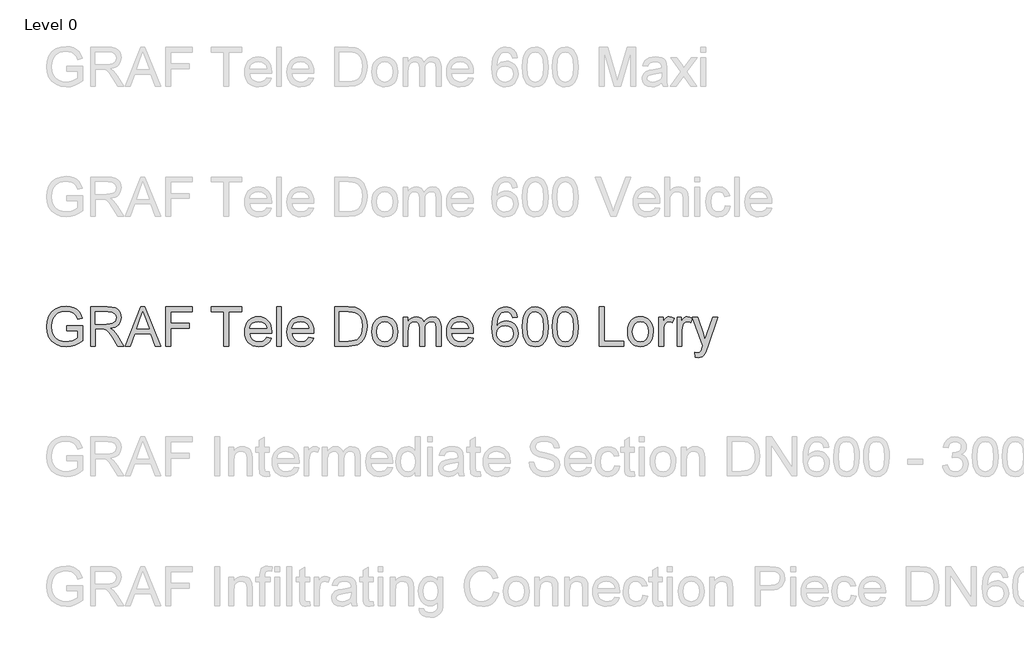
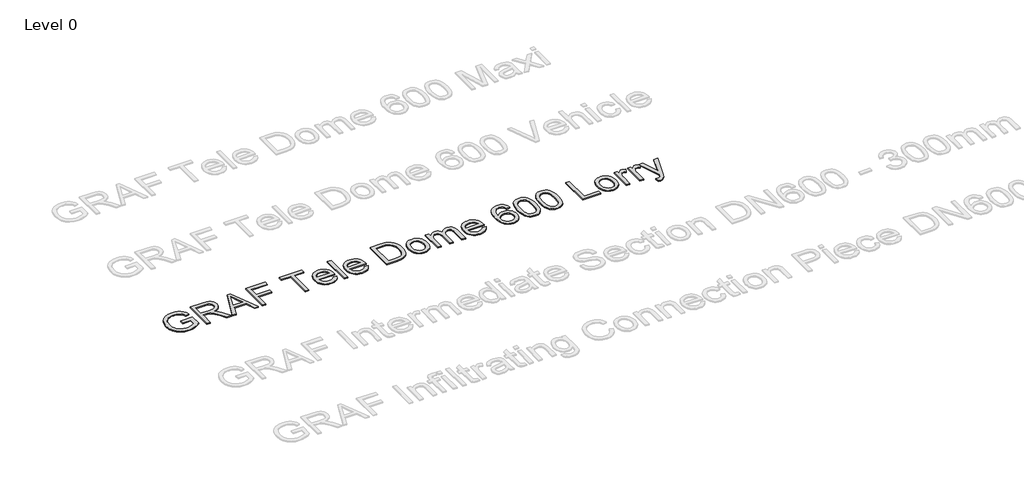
# One storey, part 18 of 25: 1 proxy.
"""IFC4 building model written with IfcOpenShell, lengths in millimetres."""

from ifc_helpers import new_model, si_unit, origin, origin_with_axes, place, context, project, spatial, polyline, outline, extrude, element, save

model = new_model("IFC4")

# Units and contexts
model_context = context("Model", 3, world=origin())
ifc_project = project(units=[si_unit("LENGTHUNIT", "METRE", prefix="MILLI")], contexts=[model_context])

# Site, building, storey
site = spatial("IfcSite", under=ifc_project)
building = spatial("IfcBuilding", under=site)
storey = spatial("IfcBuildingStorey", under=building, Name="Level 0", Elevation=0.0)

# Proxy
placement = place(None, origin())
element("IfcBuildingElementProxy", 1, Name="300mm Arial", ObjectType="300mm Arial", at=placement, inside=storey, context=model_context, shape_type="SweptSolid", body=[
    extrude(outline(polyline([(-15240.9940387, 4916.7454403), (-15240.9940387, 4954.4165566), (-15118.5629107, 4954.4165566), (-15118.5629107, 4841.7710897), (-15148.3153671, 4821.0777274), (-15179.0059225, 4806.2336889), (-15210.5610007, 4797.2941564), (-15242.9070251, 4794.3143123), (-15285.1674693, 4799.050793), (-15323.3628175, 4813.260235), (-15355.0926395, 4836.4459978), (-15377.9565055, 4868.1114405), (-15391.7796715, 4906.0952565), (-15396.3873935, 4948.2361391), (-15391.7980656, 4990.6805243), (-15378.0300819, 5030.1634594), (-15355.6536596, 5063.282036), (-15325.2390156, 5086.6333457), (-15288.1932987, 5100.4841028), (-15245.9236575, 5105.1010218), (-15214.8928112, 5102.4246803), (-15186.9889618, 5094.3956557), (-15163.4904994, 5081.5933623), (-15145.6758138, 5064.5972141), (-15132.4964413, 5042.5886738), (-15122.9039183, 5014.7492038), (-15157.6319786, 5004.9635427), (-15165.3850917, 5024.8199734), (-15174.8120678, 5039.8019677), (-15187.2832674, 5051.0959449), (-15204.169051, 5059.8883246), (-15224.3013932, 5065.5445103), (-15246.5122687, 5067.4299055), (-15272.5123287, 5065.3973575), (-15294.7415982, 5059.2997134), (-15313.1173039, 5049.9003284), (-15327.5566722, 5037.9625577), (-15346.9440533, 5008.9366683), (-15355.7732212, 4980.49939), (-15358.7162772, 4949.7812434), (-15355.175413, 4913.7563991), (-15344.5528204, 4884.1143073), (-15327.1703961, 4861.0665003), (-15303.3500369, 4844.8245102), (-15275.4737787, 4835.195199), (-15245.9236575, 4831.9854286), (-15219.831627, 4834.4042527), (-15194.3833899, 4841.6607251), (-15172.2828791, 4851.6579183), (-15156.234027, 4862.298905), (-15156.234027, 4916.7454403), (-15240.9940387, 4916.7454403)])), origin_with_axes(), (0.0, 0.0, 1.0), 10.0),
    extrude(outline(polyline([(-15057.3473467, 4799.0232018), (-15057.3473467, 5100.3921323), (-14927.4850024, 5100.3921323), (-14892.5821982, 5098.3595842), (-14867.1891434, 5092.2619402), (-14848.6294968, 5081.0047511), (-14834.2269167, 5063.4935682), (-14824.9838815, 5041.7793334), (-14821.9028698, 5017.912989), (-14827.0072325, 4988.2249119), (-14842.3203206, 4963.6136065), (-14853.9200997, 4953.5842236), (-14868.3019865, 4945.5689946), (-14905.4120827, 4935.5809984), (-14884.0013506, 4919.467767), (-14853.467145, 4880.6930048), (-14803.2144645, 4799.0232018), (-14846.9924219, 4799.0232018), (-14886.2086426, 4861.4895646), (-14914.5355562, 4902.8395009), (-14934.4379722, 4922.3740348), (-14952.3538253, 4929.5477337), (-14974.2060158, 4930.8721089), (-15019.6762304, 4930.8721089), (-15019.6762304, 4799.0232018), (-15057.3473467, 4799.0232018)]), holes=[polyline([(-15019.6762304, 4968.5432252), (-14935.3576771, 4968.5432252), (-14911.1418448, 4969.8767974), (-14892.3522719, 4973.8775141), (-14878.2072092, 4980.8120897), (-14867.9249074, 4990.9472387), (-14861.6617165, 5003.2069062), (-14859.5739861, 5016.5150374), (-14863.5563087, 5034.890743), (-14875.5032765, 5049.6979933), (-14896.058683, 5059.4652603), (-14925.8663217, 5062.721016), (-15019.6762304, 5062.721016), (-15019.6762304, 4968.5432252)])]), origin_with_axes(), (0.0, 0.0, 1.0), 10.0),
    extrude(outline(polyline([(-14791.0743586, 4799.0232018), (-14670.7769462, 5100.3921323), (-14638.6976362, 5100.3921323), (-14518.4002238, 4799.0232018), (-14558.2050557, 4799.0232018), (-14592.7123868, 4893.2009926), (-14716.835772, 4893.2009926), (-14751.2695268, 4799.0232018), (-14791.0743586, 4799.0232018)]), holes=[polyline([(-14703.003409, 4930.8721089), (-14606.4711735, 4930.8721089), (-14633.6208647, 5004.9635427), (-14654.7372912, 5062.721016), (-14673.499273, 5011.4382658), (-14703.003409, 4930.8721089)])]), origin_with_axes(), (0.0, 0.0, 1.0), 10.0),
    extrude(outline(polyline([(-14478.1539335, 4799.0232018), (-14478.1539335, 5100.3921323), (-14275.6716834, 5100.3921323), (-14275.6716834, 5062.721016), (-14440.4828172, 5062.721016), (-14440.4828172, 4973.2521147), (-14299.2161311, 4973.2521147), (-14299.2161311, 4935.5809984), (-14440.4828172, 4935.5809984), (-14440.4828172, 4799.0232018), (-14478.1539335, 4799.0232018)])), origin_with_axes(), (0.0, 0.0, 1.0), 10.0),
    extrude(outline(polyline([(-14030.8094274, 4799.0232018), (-14030.8094274, 5062.721016), (-14129.6961077, 5062.721016), (-14129.6961077, 5100.3921323), (-13894.2516308, 5100.3921323), (-13894.2516308, 5062.721016), (-13993.1383111, 5062.721016), (-13993.1383111, 4799.0232018), (-14030.8094274, 4799.0232018)])), origin_with_axes(), (0.0, 0.0, 1.0), 10.0),
    extrude(outline(polyline([(-13701.6286181, 4864.9476554), (-13664.6932658, 4860.2387658), (-13678.001397, 4832.4084929), (-13699.2373851, 4811.6047661), (-13727.9229837, 4798.6369257), (-13763.5799461, 4794.3143123), (-13786.9542484, 4796.1790141), (-13807.7809678, 4801.7731197), (-13826.0601045, 4811.0966291), (-13841.7916583, 4824.1495421), (-13854.4422004, 4840.5685754), (-13863.4783019, 4859.9904455), (-13868.8999628, 4882.4151523), (-13870.7071831, 4907.842696), (-13868.8815687, 4934.1324631), (-13863.4047255, 4957.3044302), (-13854.2766535, 4977.3585975), (-13841.4973527, 4994.2949649), (-13825.8071856, 5007.7502488), (-13807.9465147, 5017.361166), (-13787.9153401, 5023.1277162), (-13765.7136617, 5025.0498997), (-13744.2270539, 5023.1323148), (-13724.7959868, 5017.3795601), (-13707.4204603, 5007.7916356), (-13692.1004744, 4994.3685413), (-13679.5947859, 4977.4689621), (-13670.6621512, 4957.451583), (-13665.3025704, 4934.3164041), (-13663.5160434, 4908.0634252), (-13663.7367726, 4897.9098821), (-13833.0360668, 4897.9098821), (-13826.5153584, 4869.7117272), (-13811.3678173, 4848.9815768), (-13789.5064297, 4836.2344656), (-13762.8441821, 4831.9854286), (-13742.7946134, 4833.9535973), (-13725.9088298, 4839.8581033), (-13712.1868314, 4850.0668287), (-13701.6286181, 4864.9476554)]), holes=[polyline([(-13833.0360668, 4935.5809984), (-13701.1871597, 4935.5809984), (-13706.2823254, 4955.4834144), (-13716.2703215, 4969.7204476), (-13738.2328766, 4982.9641994), (-13765.8608145, 4987.3787834), (-13791.2538692, 4983.8563132), (-13812.2507341, 4973.2889029), (-13826.8464522, 4956.8169866), (-13833.0360668, 4935.5809984)])]), origin_with_axes(), (0.0, 0.0, 1.0), 10.0),
    extrude(outline(polyline([(-13625.8449271, 4799.0232018), (-13625.8449271, 5100.3921323), (-13588.1738108, 5100.3921323), (-13588.1738108, 4799.0232018), (-13625.8449271, 4799.0232018)])), origin_with_axes(), (0.0, 0.0, 1.0), 10.0),
    extrude(outline(polyline([(-13376.71524, 4864.9476554), (-13339.7798877, 4860.2387658), (-13353.0880188, 4832.4084929), (-13374.324007, 4811.6047661), (-13403.0096056, 4798.6369257), (-13438.666568, 4794.3143123), (-13462.0408702, 4796.1790141), (-13482.8675897, 4801.7731197), (-13501.1467263, 4811.0966291), (-13516.8782801, 4824.1495421), (-13529.5288222, 4840.5685754), (-13538.5649238, 4859.9904455), (-13543.9865847, 4882.4151523), (-13545.793805, 4907.842696), (-13543.9681906, 4934.1324631), (-13538.4913474, 4957.3044302), (-13529.3632754, 4977.3585975), (-13516.5839745, 4994.2949649), (-13500.8938074, 5007.7502488), (-13483.0331366, 5017.361166), (-13463.0019619, 5023.1277162), (-13440.8002835, 5025.0498997), (-13419.3136758, 5023.1323148), (-13399.8826086, 5017.3795601), (-13382.5070821, 5007.7916356), (-13367.1870963, 4994.3685413), (-13354.6814077, 4977.4689621), (-13345.748773, 4957.451583), (-13340.3891922, 4934.3164041), (-13338.6026653, 4908.0634252), (-13338.8233945, 4897.9098821), (-13508.1226887, 4897.9098821), (-13501.6019803, 4869.7117272), (-13486.4544391, 4848.9815768), (-13464.5930516, 4836.2344656), (-13437.930804, 4831.9854286), (-13417.8812352, 4833.9535973), (-13400.9954517, 4839.8581033), (-13387.2734532, 4850.0668287), (-13376.71524, 4864.9476554)]), holes=[polyline([(-13508.1226887, 4935.5809984), (-13376.2737816, 4935.5809984), (-13381.3689472, 4955.4834144), (-13391.3569434, 4969.7204476), (-13413.3194985, 4982.9641994), (-13440.9474363, 4987.3787834), (-13466.3404911, 4983.8563132), (-13487.3373559, 4973.2889029), (-13501.9330741, 4956.8169866), (-13508.1226887, 4935.5809984)])]), origin_with_axes(), (0.0, 0.0, 1.0), 10.0),
    extrude(outline(polyline([(-13178.500421, 4799.0232018), (-13178.500421, 5100.3921323), (-13074.5369691, 5100.3921323), (-13020.7526214, 5096.0511247), (-12996.7299272, 5087.6818093), (-12976.4596292, 5074.4932398), (-12955.6191142, 5051.5374033), (-12940.7750757, 5022.9897605), (-12931.8907255, 4989.4021343), (-12928.9292754, 4951.3263478), (-12930.9342323, 4918.9803234), (-12936.9491029, 4890.515454), (-12946.1093646, 4866.2812276), (-12957.5504947, 4846.627132), (-12970.7206701, 4831.1117089), (-12985.0680679, 4819.2934998), (-13001.5399842, 4810.5287112), (-13021.0837152, 4804.1735498), (-13069.533774, 4799.0232018), (-13178.500421, 4799.0232018)]), holes=[polyline([(-13140.8293047, 4836.6943181), (-13074.1690871, 4836.6943181), (-13046.5963316, 4838.0554815), (-13025.6822402, 4842.1389717), (-13009.9001026, 4848.7056653), (-12997.7232085, 4857.5164391), (-12984.6358066, 4873.8228085), (-12974.8041602, 4894.930038), (-12968.6513339, 4920.930098), (-12966.6003918, 4951.914959), (-12970.6195026, 4992.9705897), (-12982.6768349, 5023.2840661), (-13000.4915206, 5044.106187), (-13021.782691, 5056.6877512), (-13043.4509405, 5061.2126998), (-13075.1991567, 5062.721016), (-13140.8293047, 5062.721016), (-13140.8293047, 4836.6943181)])]), origin_with_axes(), (0.0, 0.0, 1.0), 10.0),
    extrude(outline(polyline([(-12891.2581591, 4909.682106), (-12889.2210126, 4938.3447119), (-12883.1095729, 4963.0433894), (-12872.9238402, 4983.7781383), (-12858.6638144, 5000.5489588), (-12844.3072195, 5011.2681204), (-12828.4607026, 5018.9246644), (-12811.1242635, 5023.5185909), (-12792.2979024, 5025.0498997), (-12771.514869, 5023.1851978), (-12752.7229968, 5017.5910922), (-12735.9222859, 5008.2675829), (-12721.1127364, 4995.2146698), (-12709.0255136, 4978.8738115), (-12700.391783, 4959.6864662), (-12695.2115447, 4937.6526339), (-12693.4847985, 4912.7723147), (-12696.5382191, 4874.7149223), (-12705.6984808, 4845.7442152), (-12720.6988691, 4824.0483745), (-12741.2726697, 4807.8155815), (-12765.7092312, 4797.6896296), (-12792.2979024, 4794.3143123), (-12813.3844386, 4796.1721164), (-12832.3510547, 4801.7455286), (-12849.1977508, 4811.034549), (-12863.9245269, 4824.0391775), (-12875.882991, 4840.538685), (-12884.4247511, 4860.3123422), (-12889.5498071, 4883.3601492), (-12891.2581591, 4909.682106)]), holes=[polyline([(-12853.5870428, 4909.7556824), (-12849.2276412, 4875.6622185), (-12836.1494363, 4851.3728097), (-12816.4677495, 4836.8322739), (-12792.2979024, 4831.9854286), (-12768.23842, 4836.859865), (-12748.5935214, 4851.4831743), (-12735.5153165, 4876.0944798), (-12731.1559148, 4910.9329048), (-12735.5429076, 4944.0330873), (-12748.703886, 4967.9914022), (-12768.3763757, 4982.5319381), (-12792.2979024, 4987.3787834), (-12816.4677495, 4982.5503322), (-12836.1494363, 4968.0649786), (-12849.2276412, 4943.8307522), (-12853.5870428, 4909.7556824)])]), origin_with_axes(), (0.0, 0.0, 1.0), 10.0),
    extrude(outline(polyline([(-12651.1047927, 4799.0232018), (-12651.1047927, 5020.3410101), (-12613.4336764, 5020.3410101), (-12613.4336764, 4983.9206926), (-12602.1029109, 5000.6501263), (-12587.5347839, 5013.7559224), (-12570.2259361, 5022.2264053), (-12550.673008, 5025.0498997), (-12529.7221284, 5022.171223), (-12512.9283153, 5013.5351932), (-12500.3835393, 4999.7120272), (-12492.1797708, 4981.2719422), (-12478.4485753, 5000.4247986), (-12462.7859994, 5014.1054103), (-12445.1920429, 5022.3137773), (-12425.666706, 5025.0498997), (-12397.3489895, 5020.49736), (-12376.4073069, 5006.8397409), (-12363.4670577, 4983.7091605), (-12359.1536413, 4950.7377366), (-12359.1536413, 4799.0232018), (-12396.8247576, 4799.0232018), (-12396.8247576, 4934.5509288), (-12400.3196366, 4966.0048394), (-12405.2308612, 4974.6776575), (-12412.9747772, 4981.4926714), (-12422.9351822, 4985.9072554), (-12434.4958739, 4987.3787834), (-12454.9041276, 4983.6079929), (-12471.5415908, 4972.2956216), (-12482.6056419, 4952.6691171), (-12486.2936589, 4923.9559274), (-12486.2936589, 4799.0232018), (-12523.9647752, 4799.0232018), (-12523.9647752, 4938.7447836), (-12526.144476, 4960.0451511), (-12532.6835784, 4975.2386775), (-12544.1890878, 4984.3437569), (-12561.2680095, 4987.3787834), (-12575.7809542, 4985.3554324), (-12589.1534647, 4979.2853795), (-12600.1899246, 4969.3157774), (-12607.6947173, 4955.593779), (-12611.9989366, 4936.5558857), (-12613.4336764, 4910.6385992), (-12613.4336764, 4799.0232018), (-12651.1047927, 4799.0232018)])), origin_with_axes(), (0.0, 0.0, 1.0), 10.0),
    extrude(outline(polyline([(-12147.6950705, 4864.9476554), (-12110.7597182, 4860.2387658), (-12124.0678494, 4832.4084929), (-12145.3038375, 4811.6047661), (-12173.9894361, 4798.6369257), (-12209.6463985, 4794.3143123), (-12233.0207007, 4796.1790141), (-12253.8474202, 4801.7731197), (-12272.1265568, 4811.0966291), (-12287.8581107, 4824.1495421), (-12300.5086528, 4840.5685754), (-12309.5447543, 4859.9904455), (-12314.9664152, 4882.4151523), (-12316.7736355, 4907.842696), (-12314.9480211, 4934.1324631), (-12309.4711779, 4957.3044302), (-12300.3431059, 4977.3585975), (-12287.5638051, 4994.2949649), (-12271.873638, 5007.7502488), (-12254.0129671, 5017.361166), (-12233.9817925, 5023.1277162), (-12211.7801141, 5025.0498997), (-12190.2935063, 5023.1323148), (-12170.8624391, 5017.3795601), (-12153.4869127, 5007.7916356), (-12138.1669268, 4994.3685413), (-12125.6612382, 4977.4689621), (-12116.7286035, 4957.451583), (-12111.3690227, 4934.3164041), (-12109.5824958, 4908.0634252), (-12109.803225, 4897.9098821), (-12279.1025192, 4897.9098821), (-12272.5818108, 4869.7117272), (-12257.4342697, 4848.9815768), (-12235.5728821, 4836.2344656), (-12208.9106345, 4831.9854286), (-12188.8610658, 4833.9535973), (-12171.9752822, 4839.8581033), (-12158.2532838, 4850.0668287), (-12147.6950705, 4864.9476554)]), holes=[polyline([(-12279.1025192, 4935.5809984), (-12147.2536121, 4935.5809984), (-12152.3487777, 4955.4834144), (-12162.3367739, 4969.7204476), (-12184.299329, 4982.9641994), (-12211.9272668, 4987.3787834), (-12237.3203216, 4983.8563132), (-12258.3171864, 4973.2889029), (-12272.9129046, 4956.8169866), (-12279.1025192, 4935.5809984)])]), origin_with_axes(), (0.0, 0.0, 1.0), 10.0),
    extrude(outline(polyline([(-11770.542449, 5020.3410101), (-11808.2135653, 5015.6321206), (-11814.2836183, 5034.3021318), (-11822.4873868, 5047.049243), (-11839.5755054, 5058.8030727), (-11860.2320795, 5062.721016), (-11877.7432624, 5060.4401476), (-11894.2243758, 5053.5975425), (-11908.3786356, 5039.1857653), (-11919.9393273, 5019.3477287), (-11927.7476226, 4991.2875296), (-11930.6446933, 4952.2092646), (-11915.5339404, 4969.8400092), (-11897.4249492, 4982.2652236), (-11877.3293952, 4989.6320606), (-11856.2589539, 4992.0876729), (-11838.1591597, 4990.4092113), (-11821.4573172, 4985.3738265), (-11806.1534262, 4976.9815185), (-11792.2474868, 4965.2322872), (-11780.6913936, 4950.8251086), (-11772.4370413, 4934.4589583), (-11767.48443, 4916.1338365), (-11765.8335595, 4895.849743), (-11768.9421624, 4868.8747957), (-11778.2679709, 4843.868017), (-11793.038433, 4822.65962), (-11812.4809965, 4807.0798175), (-11835.7127445, 4797.5056886), (-11861.8507602, 4794.3143123), (-11884.3076568, 4796.4296338), (-11904.589451, 4802.7755982), (-11922.696143, 4813.3522055), (-11938.6277326, 4828.1594558), (-11951.6162663, 4847.8227485), (-11960.8937904, 4872.9674829), (-11966.4603048, 4903.593659), (-11968.3158096, 4939.7012768), (-11966.2556705, 4980.1820918), (-11960.075253, 5014.7308097), (-11949.7745571, 5043.3474304), (-11935.3535829, 5066.0319539), (-11919.7231966, 5081.0645319), (-11901.6004098, 5091.8020877), (-11880.9852225, 5098.2446211), (-11857.8776347, 5100.3921323), (-11824.8234374, 5095.0762374), (-11798.3543279, 5079.1285529), (-11779.8130753, 5053.7998776), (-11770.542449, 5020.3410101)]), holes=[polyline([(-11930.6446933, 4896.4383541), (-11928.4649925, 4879.7457086), (-11921.9258901, 4863.8072212), (-11911.772347, 4850.1036169), (-11898.7493244, 4840.1156207), (-11883.0315661, 4834.0179766), (-11864.7938162, 4831.9854286), (-11839.9341904, 4836.1976774), (-11820.3904594, 4848.834424), (-11807.7261217, 4868.7000517), (-11803.5046758, 4894.5989442), (-11807.6709394, 4919.45857), (-11820.1697302, 4938.4136898), (-11840.044555, 4950.4158399), (-11866.3389206, 4954.4165566), (-11891.1617582, 4950.4158399), (-11911.9194998, 4938.4136898), (-11925.9633949, 4919.9184225), (-11930.6446933, 4896.4383541)])]), origin_with_axes(), (0.0, 0.0, 1.0), 10.0),
    extrude(outline(polyline([(-11732.8713327, 4947.2796459), (-11730.1030207, 4995.5181725), (-11721.7980847, 5033.9894321), (-11708.0392981, 5063.282036), (-11688.9094343, 5083.9845953), (-11664.2705377, 5096.290248), (-11633.9846524, 5100.3921323), (-11610.7712985, 5097.9641111), (-11589.9859658, 5090.6800476), (-11572.6035415, 5078.8250503), (-11559.598913, 5062.6842278), (-11549.7764637, 5042.3955357), (-11541.9405772, 5018.0969299), (-11536.8086234, 4987.2408276), (-11535.0979721, 4947.2796459), (-11537.838693, 4899.3170308), (-11546.0608556, 4860.9377416), (-11559.7368687, 4831.6175466), (-11578.8391413, 4810.8322139), (-11603.5332203, 4798.4437877), (-11633.9846524, 4794.3143123), (-11654.733197, 4796.107737), (-11673.1272967, 4801.4880112), (-11689.1669517, 4810.4551348), (-11702.8521619, 4823.0091079), (-11715.9855492, 4845.7028285), (-11725.36654, 4873.9791583), (-11730.9951346, 4907.8380975), (-11732.8713327, 4947.2796459)]), holes=[polyline([(-11695.2002164, 4947.3532223), (-11690.7856325, 4888.0966299), (-11685.2674026, 4867.8286312), (-11677.5418807, 4853.8008309), (-11657.8234057, 4837.4392792), (-11633.9846524, 4831.9854286), (-11610.1458991, 4837.4576733), (-11590.4274242, 4853.8744073), (-11582.7019023, 4867.9252003), (-11577.1836724, 4888.1886004), (-11572.7690884, 4947.3532223), (-11577.0365196, 5005.2762424), (-11582.3708085, 5025.4775625), (-11589.838813, 5039.8387559), (-11609.5204997, 5057.0004509), (-11634.4261108, 5062.721016), (-11658.0073467, 5057.6810326), (-11676.9532695, 5042.5610826), (-11684.9363088, 5026.9260978), (-11690.6384797, 5005.8464595), (-11695.2002164, 4947.3532223)])]), origin_with_axes(), (0.0, 0.0, 1.0), 10.0),
    extrude(outline(polyline([(-11502.1357454, 4947.2796459), (-11499.3674333, 4995.5181725), (-11491.0624973, 5033.9894321), (-11477.3037107, 5063.282036), (-11458.1738469, 5083.9845953), (-11433.5349503, 5096.290248), (-11403.2490651, 5100.3921323), (-11380.0357112, 5097.9641111), (-11359.2503784, 5090.6800476), (-11341.8679542, 5078.8250503), (-11328.8633256, 5062.6842278), (-11319.0408764, 5042.3955357), (-11311.2049899, 5018.0969299), (-11306.073036, 4987.2408276), (-11304.3623847, 4947.2796459), (-11307.1031056, 4899.3170308), (-11315.3252682, 4860.9377416), (-11329.0012814, 4831.6175466), (-11348.103554, 4810.8322139), (-11372.7976329, 4798.4437877), (-11403.2490651, 4794.3143123), (-11423.9976096, 4796.107737), (-11442.3917093, 4801.4880112), (-11458.4313643, 4810.4551348), (-11472.1165745, 4823.0091079), (-11485.2499618, 4845.7028285), (-11494.6309527, 4873.9791583), (-11500.2595472, 4907.8380975), (-11502.1357454, 4947.2796459)]), holes=[polyline([(-11464.464629, 4947.3532223), (-11460.0500451, 4888.0966299), (-11454.5318152, 4867.8286312), (-11446.8062933, 4853.8008309), (-11427.0878183, 4837.4392792), (-11403.2490651, 4831.9854286), (-11379.4103118, 4837.4576733), (-11359.6918368, 4853.8744073), (-11351.9663149, 4867.9252003), (-11346.448085, 4888.1886004), (-11342.0335011, 4947.3532223), (-11346.3009322, 5005.2762424), (-11351.6352211, 5025.4775625), (-11359.1032256, 5039.8387559), (-11378.7849124, 5057.0004509), (-11403.6905234, 5062.721016), (-11427.2717593, 5057.6810326), (-11446.2176821, 5042.5610826), (-11454.2007214, 5026.9260978), (-11459.9028923, 5005.8464595), (-11464.464629, 4947.3532223)])]), origin_with_axes(), (0.0, 0.0, 1.0), 10.0),
    extrude(outline(polyline([(-11139.5512509, 4799.0232018), (-11139.5512509, 5100.3921323), (-11101.8801346, 5100.3921323), (-11101.8801346, 4836.6943181), (-10951.1956694, 4836.6943181), (-10951.1956694, 4799.0232018), (-11139.5512509, 4799.0232018)])), origin_with_axes(), (0.0, 0.0, 1.0), 10.0),
    extrude(outline(polyline([(-10922.9423321, 4909.682106), (-10920.9051856, 4938.3447119), (-10914.793746, 4963.0433894), (-10904.6080132, 4983.7781383), (-10890.3479874, 5000.5489588), (-10875.9913925, 5011.2681204), (-10860.1448756, 5018.9246644), (-10842.8084365, 5023.5185909), (-10823.9820754, 5025.0498997), (-10803.199042, 5023.1851978), (-10784.4071698, 5017.5910922), (-10767.6064589, 5008.2675829), (-10752.7969094, 4995.2146698), (-10740.7096866, 4978.8738115), (-10732.075956, 4959.6864662), (-10726.8957177, 4937.6526339), (-10725.1689715, 4912.7723147), (-10728.2223921, 4874.7149223), (-10737.3826538, 4845.7442152), (-10752.3830421, 4824.0483745), (-10772.9568427, 4807.8155815), (-10797.3934042, 4797.6896296), (-10823.9820754, 4794.3143123), (-10845.0686116, 4796.1721164), (-10864.0352277, 4801.7455286), (-10880.8819238, 4811.034549), (-10895.6086999, 4824.0391775), (-10907.567164, 4840.538685), (-10916.1089241, 4860.3123422), (-10921.2339801, 4883.3601492), (-10922.9423321, 4909.682106)]), holes=[polyline([(-10885.2712158, 4909.7556824), (-10880.9118142, 4875.6622185), (-10867.8336093, 4851.3728097), (-10848.1519225, 4836.8322739), (-10823.9820754, 4831.9854286), (-10799.922593, 4836.859865), (-10780.2776944, 4851.4831743), (-10767.1994895, 4876.0944798), (-10762.8400878, 4910.9329048), (-10767.2270806, 4944.0330873), (-10780.388059, 4967.9914022), (-10800.0605487, 4982.5319381), (-10823.9820754, 4987.3787834), (-10848.1519225, 4982.5503322), (-10867.8336093, 4968.0649786), (-10880.9118142, 4943.8307522), (-10885.2712158, 4909.7556824)])]), origin_with_axes(), (0.0, 0.0, 1.0), 10.0),
    extrude(outline(polyline([(-10682.7889657, 4799.0232018), (-10682.7889657, 5020.3410101), (-10649.8267389, 5020.3410101), (-10649.8267389, 4987.5995125), (-10637.6498449, 5006.5822235), (-10626.429444, 5017.7658362), (-10615.172255, 5023.2288838), (-10602.8849963, 5025.0498997), (-10584.1230146, 5022.1436319), (-10565.0667272, 5013.4248286), (-10577.6482915, 4979.6532615), (-10590.8920433, 4985.4474029), (-10604.1357951, 4987.3787834), (-10615.3837871, 4985.5209793), (-10625.4361626, 4979.947567), (-10633.5571577, 4971.081611), (-10639.0110083, 4959.3461753), (-10643.5911391, 4938.3033252), (-10645.1178494, 4915.3474887), (-10645.1178494, 4799.0232018), (-10682.7889657, 4799.0232018)])), origin_with_axes(), (0.0, 0.0, 1.0), 10.0),
    extrude(outline(polyline([(-10541.5222795, 4799.0232018), (-10541.5222795, 5020.3410101), (-10508.5600528, 5020.3410101), (-10508.5600528, 4987.5995125), (-10496.3831587, 5006.5822235), (-10485.1627579, 5017.7658362), (-10473.9055688, 5023.2288838), (-10461.6183102, 5025.0498997), (-10442.8563284, 5022.1436319), (-10423.8000411, 5013.4248286), (-10436.3816053, 4979.6532615), (-10449.6253572, 4985.4474029), (-10462.869109, 4987.3787834), (-10474.117101, 4985.5209793), (-10484.1694765, 4979.947567), (-10492.2904715, 4971.081611), (-10497.7443221, 4959.3461753), (-10502.324453, 4938.3033252), (-10503.8511632, 4915.3474887), (-10503.8511632, 4799.0232018), (-10541.5222795, 4799.0232018)])), origin_with_axes(), (0.0, 0.0, 1.0), 10.0),
    extrude(outline(polyline([(-10400.2555934, 4714.2631901), (-10404.9644829, 4750.5363549), (-10385.8346192, 4747.2254169), (-10367.9555542, 4751.3824834), (-10356.9926708, 4762.9707663), (-10346.6919749, 4790.7090687), (-10343.7489189, 4799.8325422), (-10423.8000411, 5020.3410101), (-10384.0687856, 5020.3410101), (-10341.6152034, 4897.4684237), (-10326.8263472, 4848.3193892), (-10312.037491, 4891.7294646), (-10268.4066863, 5020.3410101), (-10228.9697364, 5020.3410101), (-10306.0042262, 4793.7257011), (-10326.0170068, 4744.5766665), (-10336.2625203, 4728.8864994), (-10347.8691973, 4718.0155865), (-10361.3520724, 4711.6696221), (-10377.2261805, 4709.5543006), (-10400.2555934, 4714.2631901)])), origin_with_axes(), (0.0, 0.0, 1.0), 10.0),
])

save(model, "model.ifc")
